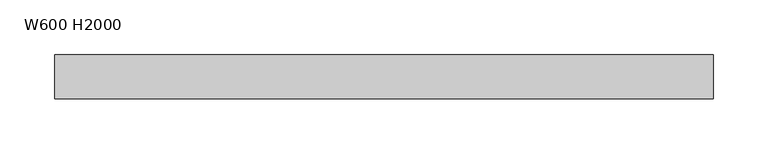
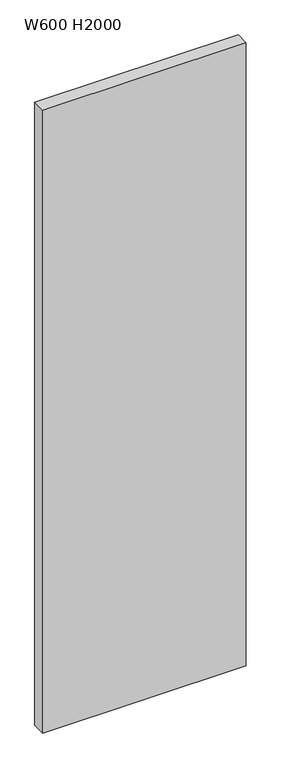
"""IFC4 building model written with IfcOpenShell, lengths in millimetres: proxy geometry, r トイレブース扉 : W600 H2000."""

from ifc_helpers import new_model, si_unit, frame, origin, place, context, project, spatial, polyline, outline, extrude, source, transform, mapped, element, save


def w600_h2000_381ad4ff(model_context):
    return source(origin(), model_context, "Body", "SweptSolid", [
        extrude(outline(polyline([(425.0, -20.0), (-175.0, -20.0), (-175.0, 20.0), (425.0, 20.0), (425.0, -20.0)])), frame((0.0, 0.0, 60.0), z_axis=(0.0, 0.0, 1.0), x_axis=(1.0, 0.0, 0.0)), (0.0, 0.0, 1.0), 1940.0),
    ])


if __name__ == "__main__":
    model = new_model("IFC4")
    model_context = context("Model", 3, world=origin())
    ifc_project = project(units=[si_unit("LENGTHUNIT", "METRE", prefix="MILLI")], contexts=[model_context])
    site = spatial("IfcSite", under=ifc_project)
    building = spatial("IfcBuilding", under=site)
    placement = place(None, origin())
    w600_h2000_shape = w600_h2000_381ad4ff(model_context)
    element("IfcBuildingElementProxy", 1, Name="r トイレブース扉 : W600 H2000", ObjectType="r トイレブース扉 : W600 H2000", at=placement, inside=building, context=model_context, shape_type="MappedRepresentation", body=[
        mapped(w600_h2000_shape, transform((0.0, 0.0, 0.0), x_axis=(1.0, 0.0, 0.0), y_axis=(0.0, 1.0, 0.0), z_axis=(0.0, 0.0, 1.0))),
    ])
    save(model, "model.ifc")
